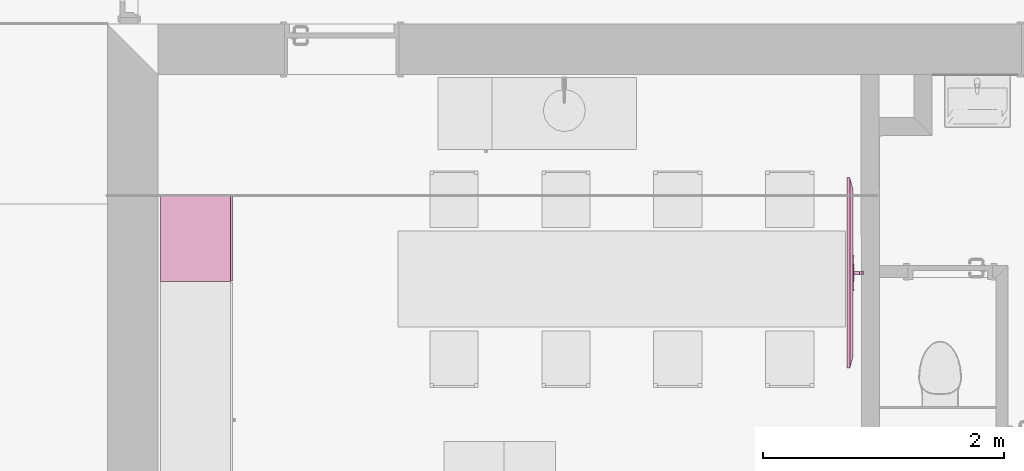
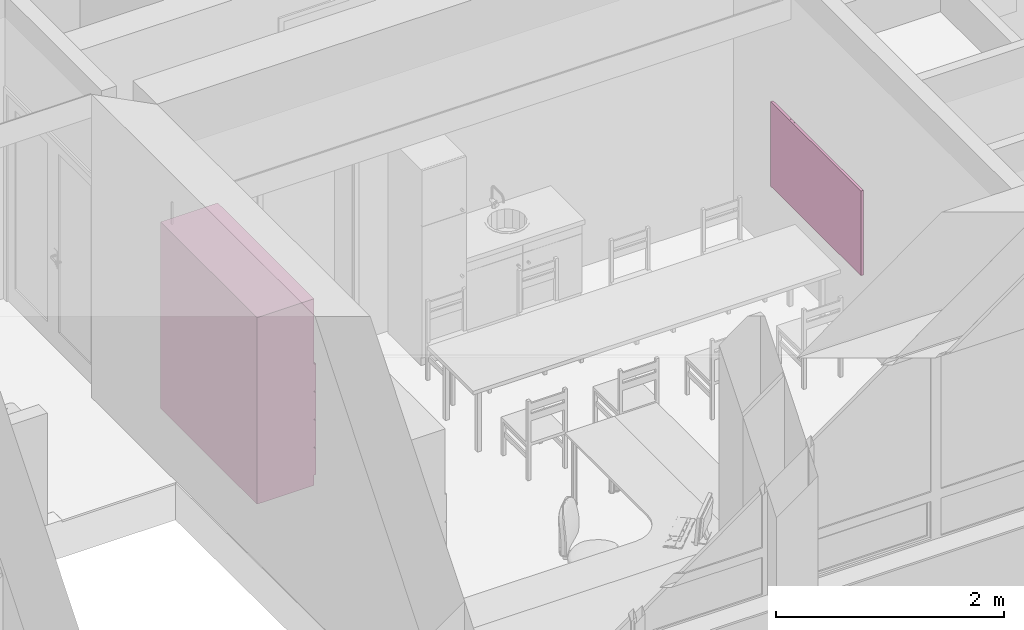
# One storey, part 136 of 194: 2 furnishings.
"""IFC2X3 building model written with IfcOpenShell, lengths in millimetres."""

from ifc_helpers import new_model, entity, si_unit, converted_unit, derived_unit, money_unit, direction, frame, origin_with_axes, place, context, subcontext, project, spatial, faceted_brep, source, transform, mapped, type_object, element, save


model = new_model("IFC2X3")

# Units and contexts
model_context = context("Model", 3, precision=1e-05, world=origin_with_axes(), true_north=direction((0.0, 1.0)))
body_context = subcontext(model_context, "Body", "Model", "MODEL_VIEW")
ifc_project = project(units=[si_unit("LENGTHUNIT", "METRE", prefix="MILLI"), si_unit("AREAUNIT", "SQUARE_METRE"), si_unit("VOLUMEUNIT", "CUBIC_METRE"), converted_unit("PLANEANGLEUNIT", "DEGREE", entity("IfcPlaneAngleMeasure", 0.0174532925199), si_unit("PLANEANGLEUNIT", "RADIAN"), dimensions=[0, 0, 0, 0, 0, 0, 0]), si_unit("SOLIDANGLEUNIT", "STERADIAN"), money_unit("EUR"), converted_unit("TIMEUNIT", "Year", entity("IfcTimeMeasure", 31556926.0), si_unit("TIMEUNIT", "SECOND"), dimensions=[0, 0, 1, 0, 0, 0, 0]), si_unit("MASSUNIT", "GRAM", prefix="KILO"), si_unit("THERMODYNAMICTEMPERATUREUNIT", "DEGREE_CELSIUS"), si_unit("LUMINOUSINTENSITYUNIT", "LUMEN"), si_unit("ENERGYUNIT", "JOULE", prefix="MEGA"), derived_unit("THERMALCONDUCTANCEUNIT", [(si_unit("POWERUNIT", "WATT"), 1), (si_unit("LENGTHUNIT", "METRE"), -1), (si_unit("THERMODYNAMICTEMPERATUREUNIT", "KELVIN"), -1)]), derived_unit("SPECIFICHEATCAPACITYUNIT", [(si_unit("ENERGYUNIT", "JOULE"), 1), (si_unit("MASSUNIT", "GRAM", prefix="KILO"), -1), (si_unit("THERMODYNAMICTEMPERATUREUNIT", "KELVIN"), -1)]), derived_unit("MASSDENSITYUNIT", [(si_unit("MASSUNIT", "GRAM", prefix="KILO"), 1), (si_unit("VOLUMEUNIT", "CUBIC_METRE"), -1)])], contexts=[model_context])

# Site, building, storey
site_placement = place(None, origin_with_axes())
site = spatial("IfcSite", under=ifc_project, at=site_placement, Name="Site", CompositionType="ELEMENT")
building_placement = place(site_placement, origin_with_axes())
building = spatial("IfcBuilding", under=site, at=building_placement, Name="Building", CompositionType="ELEMENT")
storey_placement = place(building_placement, frame((0.0, 0.0, 3000.0), z_axis=(0.0, 0.0, 1.0), x_axis=(1.0, 0.0, 0.0)))
storey = spatial("IfcBuildingStorey", under=building, at=storey_placement, Name="2 KORRUS", CompositionType="ELEMENT", Elevation=3000.0)

# Furnishings
furnishing_element_type_1 = type_object("IfcFurnishingElementType", Name="Flat Panel TV 22")
shared_shape_1 = source(origin_with_axes(), body_context, "Body", "Brep", [
    faceted_brep([(716.344350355, 60.0, 528.881197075), (716.344350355, 50.0, 528.881197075), (866.344350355, 50.0, 528.881197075), (866.344350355, 60.0, 528.881197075), (716.344350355, 60.0, 378.881197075), (716.344350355, 50.0, 378.881197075), (866.344350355, 50.0, 378.881197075), (866.344350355, 60.0, 378.881197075)], [[[0, 1, 2, 3]], [[4, 5, 1, 0]], [[1, 5, 6, 2]], [[3, 2, 6, 7]], [[0, 3, 7, 4]], [[7, 6, 5, 4]]]),
    faceted_brep([(641.344350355, 55.0, 358.881197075), (641.344350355, 50.0, 358.881197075), (641.344350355, 50.0, 378.881197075), (641.344350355, 55.0, 378.881197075), (941.344350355, 55.0, 358.881197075), (941.344350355, 50.0, 358.881197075), (941.344350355, 50.0, 378.881197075), (941.344350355, 55.0, 378.881197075)], [[[0, 1, 2, 3]], [[4, 5, 1, 0]], [[1, 5, 6, 2]], [[3, 2, 6, 7]], [[0, 3, 7, 4]], [[7, 6, 5, 4]]]),
    faceted_brep([(641.344350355, 55.0, 548.881197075), (641.344350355, 55.0, 528.881197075), (641.344350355, 50.0, 528.881197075), (641.344350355, 50.0, 548.881197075), (941.344350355, 55.0, 548.881197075), (941.344350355, 55.0, 528.881197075), (941.344350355, 50.0, 528.881197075), (941.344350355, 50.0, 548.881197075)], [[[0, 1, 2, 3]], [[0, 4, 5, 1]], [[1, 5, 6, 2]], [[3, 2, 6, 7]], [[4, 0, 3, 7]], [[5, 4, 7, 6]]]),
    faceted_brep([(656.344350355, 60.0, 341.381197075), (646.344350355, 60.0, 341.381197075), (646.344350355, 60.0, 566.381197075), (656.344350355, 60.0, 566.381197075), (656.344350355, 50.0, 303.881197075), (646.344350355, 50.0, 303.881197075), (646.344350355, 50.0, 603.881197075), (656.344350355, 50.0, 603.881197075)], [[[0, 1, 2, 3]], [[4, 5, 1, 0]], [[1, 5, 6, 2]], [[3, 2, 6, 7]], [[0, 3, 7, 4]], [[7, 6, 5, 4]]]),
    faceted_brep([(926.344350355, 60.0, 341.381197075), (926.344350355, 60.0, 566.381197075), (936.344350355, 60.0, 566.381197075), (936.344350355, 60.0, 341.381197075), (926.344350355, 50.0, 303.881197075), (926.344350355, 50.0, 603.881197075), (936.344350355, 50.0, 603.881197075), (936.344350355, 50.0, 303.881197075)], [[[0, 1, 2, 3]], [[0, 4, 5, 1]], [[1, 5, 6, 2]], [[3, 2, 6, 7]], [[4, 0, 3, 7]], [[5, 4, 7, 6]]]),
    faceted_brep([(803.844350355, 93.75, 466.381197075), (803.844350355, 93.75, 416.381197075), (803.090508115, 98.0252517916, 416.381197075), (803.090508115, 98.0252517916, 466.381197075), (803.090508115, 89.4747482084, 466.381197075), (803.090508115, 89.4747482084, 416.381197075), (800.919905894, 85.7151548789, 416.381197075), (797.594350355, 82.9246824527, 416.381197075), (793.514952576, 81.4399030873, 416.381197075), (789.173748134, 81.4399030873, 416.381197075), (785.094350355, 82.9246824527, 416.381197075), (781.768794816, 85.7151548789, 416.381197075), (779.598192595, 89.4747482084, 416.381197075), (778.844350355, 93.75, 416.381197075), (779.598192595, 98.0252517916, 416.381197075), (781.768794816, 101.784845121, 416.381197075), (785.094350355, 104.575317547, 416.381197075), (789.173748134, 106.060096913, 416.381197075), (793.514952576, 106.060096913, 416.381197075), (797.594350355, 104.575317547, 416.381197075), (800.919905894, 101.784845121, 416.381197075), (800.919905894, 101.784845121, 466.381197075), (797.594350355, 104.575317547, 466.381197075), (793.514952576, 106.060096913, 466.381197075), (789.173748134, 106.060096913, 466.381197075), (785.094350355, 104.575317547, 466.381197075), (781.768794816, 101.784845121, 466.381197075), (779.598192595, 98.0252517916, 466.381197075), (778.844350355, 93.75, 466.381197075), (779.598192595, 89.4747482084, 466.381197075), (781.768794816, 85.7151548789, 466.381197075), (785.094350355, 82.9246824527, 466.381197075), (789.173748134, 81.4399030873, 466.381197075), (793.514952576, 81.4399030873, 466.381197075), (797.594350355, 82.9246824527, 466.381197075), (800.919905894, 85.7151548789, 466.381197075)], [[[0, 1, 2, 3]], [[4, 5, 1, 0]], [[1, 5, 6, 7, 8, 9, 10, 11, 12, 13, 14, 15, 16, 17, 18, 19, 20, 2]], [[3, 2, 20, 21]], [[0, 3, 21, 22, 23, 24, 25, 26, 27, 28, 29, 30, 31, 32, 33, 34, 35, 4]], [[35, 6, 5, 4]], [[34, 7, 6, 35]], [[33, 8, 7, 34]], [[32, 9, 8, 33]], [[31, 10, 9, 32]], [[30, 11, 10, 31]], [[29, 12, 11, 30]], [[28, 13, 12, 29]], [[27, 14, 13, 28]], [[26, 15, 14, 27]], [[25, 16, 15, 26]], [[24, 17, 16, 25]], [[23, 18, 17, 24]], [[22, 19, 18, 23]], [[21, 20, 19, 22]]]),
    faceted_brep([(803.844350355, 93.75, 441.381197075), (803.844350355, 93.75, 466.381197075), (803.844350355, 60.0, 466.381197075), (803.844350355, 60.0, 441.381197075), (803.090508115, 89.4747482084, 466.381197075), (803.090508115, 89.4747482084, 441.381197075), (779.598192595, 89.4747482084, 466.381197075), (778.844350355, 93.75, 466.381197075), (778.844350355, 60.0, 466.381197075), (800.919905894, 85.7151548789, 466.381197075), (797.594350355, 82.9246824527, 466.381197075), (793.514952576, 81.4399030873, 466.381197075), (789.173748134, 81.4399030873, 466.381197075), (785.094350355, 82.9246824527, 466.381197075), (781.768794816, 85.7151548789, 466.381197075), (778.844350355, 60.0, 441.381197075), (778.844350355, 93.75, 441.381197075), (779.598192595, 89.4747482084, 441.381197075), (781.768794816, 85.7151548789, 441.381197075), (785.094350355, 82.9246824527, 441.381197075), (789.173748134, 81.4399030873, 441.381197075), (793.514952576, 81.4399030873, 441.381197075), (797.594350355, 82.9246824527, 441.381197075), (800.919905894, 85.7151548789, 441.381197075)], [[[0, 1, 2, 3]], [[4, 1, 0, 5]], [[6, 7, 8, 2, 1, 4, 9, 10, 11, 12, 13, 14]], [[3, 2, 8, 15]], [[5, 0, 3, 15, 16, 17, 18, 19, 20, 21, 22, 23]], [[9, 4, 5, 23]], [[7, 6, 17, 16]], [[7, 16, 15, 8]], [[10, 9, 23, 22]], [[11, 10, 22, 21]], [[12, 11, 21, 20]], [[13, 12, 20, 19]], [[14, 13, 19, 18]], [[6, 14, 18, 17]]]),
    faceted_brep([(800.919905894, 101.784845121, 441.381197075), (803.090508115, 98.0252517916, 441.381197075), (803.844350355, 93.75, 441.381197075), (803.844350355, 127.5, 441.381197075), (778.844350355, 127.5, 441.381197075), (778.844350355, 93.75, 441.381197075), (779.598192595, 98.0252517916, 441.381197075), (781.768794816, 101.784845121, 441.381197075), (785.094350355, 104.575317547, 441.381197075), (789.173748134, 106.060096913, 441.381197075), (793.514952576, 106.060096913, 441.381197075), (797.594350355, 104.575317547, 441.381197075), (800.919905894, 101.784845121, 416.381197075), (803.090508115, 98.0252517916, 416.381197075), (803.844350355, 93.75, 416.381197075), (803.844350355, 127.5, 416.381197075), (778.844350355, 127.5, 416.381197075), (778.844350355, 93.75, 416.381197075), (779.598192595, 98.0252517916, 416.381197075), (781.768794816, 101.784845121, 416.381197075), (785.094350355, 104.575317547, 416.381197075), (789.173748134, 106.060096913, 416.381197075), (793.514952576, 106.060096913, 416.381197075), (797.594350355, 104.575317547, 416.381197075)], [[[0, 1, 2, 3, 4, 5, 6, 7, 8, 9, 10, 11]], [[1, 0, 12, 13]], [[2, 1, 13, 14]], [[2, 14, 15, 3]], [[4, 3, 15, 16]], [[17, 5, 4, 16]], [[6, 5, 17, 18]], [[7, 6, 18, 19]], [[8, 7, 19, 20]], [[9, 8, 20, 21]], [[10, 9, 21, 22]], [[11, 10, 22, 23]], [[0, 11, 23, 12]], [[18, 17, 16, 15, 14, 13, 12, 23, 22, 21, 20, 19]]]),
    faceted_brep([(776.344350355, 127.5, 353.881197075), (776.344350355, 137.5, 353.881197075), (806.344350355, 137.5, 353.881197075), (806.344350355, 127.5, 353.881197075), (776.344350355, 127.5, 503.881197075), (776.344350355, 137.5, 503.881197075), (806.344350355, 137.5, 503.881197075), (806.344350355, 127.5, 503.881197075)], [[[0, 1, 2, 3]], [[4, 5, 1, 0]], [[1, 5, 6, 2]], [[3, 2, 6, 7]], [[0, 3, 7, 4]], [[7, 6, 5, 4]]]),
    faceted_brep([(1562.68870071, 0.0, 20.0), (1562.68870071, 1.0, 20.0), (1562.68870071, 1.0, 887.76239415), (1562.68870071, 0.0, 887.76239415), (20.0, 0.0, 20.0), (20.0, 1.0, 20.0), (20.0, 1.0, 887.76239415), (20.0, 0.0, 887.76239415)], [[[0, 1, 2, 3]], [[4, 5, 1, 0]], [[1, 5, 6, 2]], [[3, 2, 6, 7]], [[0, 3, 7, 4]], [[7, 6, 5, 4]]]),
    faceted_brep([(1582.68870071, 0.0, 907.76239415), (0.0, 0.0, 907.76239415), (0.0, 0.0, 0.0), (1582.68870071, 0.0, 0.0), (20.0, 0.0, 20.0), (20.0, 0.0, 887.76239415), (1562.68870071, 0.0, 887.76239415), (1562.68870071, 0.0, 20.0), (1582.68870095, 25.0, 907.762393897), (-3.89516308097e-07, 25.0, 907.762393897), (-3.89516308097e-07, 25.0, -3.89516363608e-07), (1582.68870095, 25.0, -3.89516363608e-07), (20.0, 1.0, 20.0), (20.0, 1.0, 887.76239415), (1562.68870071, 1.0, 887.76239415), (1562.68870071, 1.0, 20.0), (1489.38742937, 50.0000003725, 814.461122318), (93.30127119, 50.0000003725, 814.461122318), (93.30127119, 50.0000003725, 93.30127119), (1489.38742937, 50.0000003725, 93.30127119)], [[[0, 1, 2, 3], [4, 5, 6, 7]], [[8, 9, 1, 0]], [[9, 10, 2, 1]], [[10, 11, 3, 2]], [[11, 8, 0, 3]], [[5, 4, 12, 13]], [[6, 5, 13, 14]], [[7, 6, 14, 15]], [[4, 7, 15, 12]], [[16, 17, 9, 8]], [[17, 18, 10, 9]], [[18, 19, 11, 10]], [[19, 16, 8, 11]], [[14, 13, 12, 15]], [[16, 19, 18, 17]]]),
    faceted_brep([(791.344350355, -0.8, 5.0), (791.344350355, 0.0, 5.0), (807.171237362, 0.0, 10.0), (807.171237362, -0.8, 10.0), (775.517463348, -0.8, 10.0), (775.517463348, 0.0, 10.0), (633.075480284, 0.0, 15.0), (949.613220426, 0.0, 15.0), (949.613220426, -0.8, 15.0), (633.075480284, -0.8, 15.0)], [[[0, 1, 2, 3]], [[4, 5, 1, 0]], [[1, 5, 6, 7, 2]], [[3, 2, 7, 8]], [[0, 3, 8, 9, 4]], [[9, 6, 5, 4]], [[8, 7, 6, 9]]]),
    faceted_brep([(211.025160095, 10.0, 907.76239415), (211.025160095, 10.0, 909.36239415), (105.512580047, 10.0, 909.36239415), (105.512580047, 10.0, 907.76239415), (211.025160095, 16.25, 907.76239415), (211.025160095, 16.25, 909.36239415), (105.512580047, 16.25, 909.36239415), (105.512580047, 16.25, 907.76239415)], [[[0, 1, 2, 3]], [[0, 4, 5, 1]], [[1, 5, 6, 2]], [[2, 6, 7, 3]], [[3, 7, 4, 0]], [[7, 6, 5, 4]]]),
    faceted_brep([(324.074353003, 10.0, 907.76239415), (324.074353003, 10.0, 909.36239415), (218.561772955, 10.0, 909.36239415), (218.561772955, 10.0, 907.76239415), (324.074353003, 16.25, 907.76239415), (324.074353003, 16.25, 909.36239415), (218.561772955, 16.25, 909.36239415), (218.561772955, 16.25, 907.76239415)], [[[0, 1, 2, 3]], [[0, 4, 5, 1]], [[1, 5, 6, 2]], [[2, 6, 7, 3]], [[3, 7, 4, 0]], [[7, 6, 5, 4]]]),
    faceted_brep([(384.367255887, 10.0, 907.76239415), (384.367255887, 10.0, 909.36239415), (331.610965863, 10.0, 909.36239415), (331.610965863, 10.0, 907.76239415), (384.367255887, 16.25, 907.76239415), (384.367255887, 16.25, 909.36239415), (331.610965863, 16.25, 909.36239415), (331.610965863, 16.25, 907.76239415)], [[[0, 1, 2, 3]], [[0, 4, 5, 1]], [[1, 5, 6, 2]], [[2, 6, 7, 3]], [[3, 7, 4, 0]], [[7, 6, 5, 4]]]),
])
furnishing_1_placement = place(storey_placement, frame((69884.2627053, 39726.1471287, 886.409781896), z_axis=(0.0, 0.0, 1.0), x_axis=(0.000384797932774, -0.999999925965, 0.0)))
element("IfcFurnishingElement", 1, at=furnishing_1_placement, inside=storey, type_object=furnishing_element_type_1, Name="FU - 002", context=body_context, shape_type="MappedRepresentation", body=[
    mapped(shared_shape_1, transform((0.0, 0.0, 0.0))),
])
furnishing_element_type_2 = type_object("IfcFurnishingElementType", Name="Model Element 52")
shared_shape_2 = source(origin_with_axes(), body_context, "Body", "Brep", [
    faceted_brep([(1693.4828307, 19.0, 0.0), (0.0, 19.0, 0.0), (0.0, 599.467164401, 0.0), (1693.4828307, 599.467164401, 0.0), (1693.4828307, 19.0, 100.0), (0.0, 19.0, 100.0), (0.0, 599.467164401, 100.0), (1693.4828307, 599.467164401, 100.0)], [[[0, 1, 2, 3]], [[1, 0, 4, 5]], [[2, 1, 5, 6]], [[3, 2, 6, 7]], [[0, 3, 7, 4]], [[5, 4, 7, 6]]]),
    faceted_brep([(19.0, 599.467164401, 119.0), (19.0, 580.467164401, 119.0), (19.0, 580.467164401, 1981.0), (19.0, 599.467164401, 1981.0), (1674.4828307, 599.467164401, 119.0), (1674.4828307, 580.467164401, 119.0), (1674.4828307, 580.467164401, 1981.0), (1674.4828307, 599.467164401, 1981.0)], [[[0, 1, 2, 3]], [[0, 4, 5, 1]], [[1, 5, 6, 2]], [[3, 2, 6, 7]], [[4, 0, 3, 7]], [[5, 4, 7, 6]]]),
    faceted_brep([(1693.4828307, 19.0, 100.0), (1674.4828307, 19.0, 100.0), (1674.4828307, 599.467164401, 100.0), (1693.4828307, 599.467164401, 100.0), (1693.4828307, 19.0, 2000.0), (1674.4828307, 19.0, 2000.0), (1674.4828307, 599.467164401, 2000.0), (1693.4828307, 599.467164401, 2000.0)], [[[0, 1, 2, 3]], [[1, 0, 4, 5]], [[2, 1, 5, 6]], [[3, 2, 6, 7]], [[0, 3, 7, 4]], [[5, 4, 7, 6]]]),
    faceted_brep([(19.0, 19.0, 100.0), (0.0, 19.0, 100.0), (0.0, 599.467164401, 100.0), (19.0, 599.467164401, 100.0), (19.0, 19.0, 2000.0), (0.0, 19.0, 2000.0), (0.0, 599.467164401, 2000.0), (19.0, 599.467164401, 2000.0)], [[[0, 1, 2, 3]], [[1, 0, 4, 5]], [[2, 1, 5, 6]], [[3, 2, 6, 7]], [[0, 3, 7, 4]], [[5, 4, 7, 6]]]),
    faceted_brep([(1674.4828307, 19.0, 100.0), (19.0, 19.0, 100.0), (19.0, 599.467164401, 100.0), (1674.4828307, 599.467164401, 100.0), (1674.4828307, 19.0, 119.0), (19.0, 19.0, 119.0), (19.0, 599.467164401, 119.0), (1674.4828307, 599.467164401, 119.0)], [[[0, 1, 2, 3]], [[1, 0, 4, 5]], [[2, 1, 5, 6]], [[3, 2, 6, 7]], [[0, 3, 7, 4]], [[5, 4, 7, 6]]]),
    faceted_brep([(1674.4828307, 19.0, 1981.0), (19.0, 19.0, 1981.0), (19.0, 599.467164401, 1981.0), (1674.4828307, 599.467164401, 1981.0), (1674.4828307, 19.0, 2000.0), (19.0, 19.0, 2000.0), (19.0, 599.467164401, 2000.0), (1674.4828307, 599.467164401, 2000.0)], [[[0, 1, 2, 3]], [[1, 0, 4, 5]], [[2, 1, 5, 6]], [[3, 2, 6, 7]], [[0, 3, 7, 4]], [[5, 4, 7, 6]]]),
    faceted_brep([(5.0, 19.0, 105.0), (1688.4828307, 19.0, 105.0), (1688.4828307, 0.0, 105.0), (5.0, 0.0, 105.0), (5.0, 19.0, 395.0), (1688.4828307, 19.0, 395.0), (1688.4828307, 0.0, 395.0), (5.0, 0.0, 395.0)], [[[0, 1, 2, 3]], [[0, 4, 5, 1]], [[1, 5, 6, 2]], [[3, 2, 6, 7]], [[4, 0, 3, 7]], [[5, 4, 7, 6]]]),
    faceted_brep([(857.133720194, 0.0, 244.0), (852.741415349, 0.0, 239.607695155), (846.741415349, 0.0, 238.0), (840.741415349, 0.0, 239.607695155), (836.349110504, 0.0, 244.0), (834.741415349, 0.0, 250.0), (836.349110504, 0.0, 256.0), (840.741415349, 0.0, 260.392304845), (846.741415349, 0.0, 262.0), (852.741415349, 0.0, 260.392304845), (857.133720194, 0.0, 256.0), (858.741415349, 0.0, 250.0), (857.133720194, -25.0, 244.0), (852.741415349, -25.0, 239.607695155), (846.741415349, -25.0, 238.0), (840.741415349, -25.0, 239.607695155), (836.349110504, -25.0, 244.0), (834.741415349, -25.0, 250.0), (836.349110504, -25.0, 256.0), (840.741415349, -25.0, 260.392304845), (846.741415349, -25.0, 262.0), (852.741415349, -25.0, 260.392304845), (857.133720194, -25.0, 256.0), (858.741415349, -25.0, 250.0)], [[[0, 1, 2, 3, 4, 5, 6, 7, 8, 9, 10, 11]], [[1, 0, 12, 13]], [[2, 1, 13, 14]], [[3, 2, 14, 15]], [[4, 3, 15, 16]], [[5, 4, 16, 17]], [[6, 5, 17, 18]], [[7, 6, 18, 19]], [[8, 7, 19, 20]], [[9, 8, 20, 21]], [[10, 9, 21, 22]], [[11, 10, 22, 23]], [[0, 11, 23, 12]], [[12, 23, 22, 21, 20, 19, 18, 17, 16, 15, 14, 13]]]),
    faceted_brep([(5.0, 19.0, 405.0), (1688.4828307, 19.0, 405.0), (1688.4828307, 0.0, 405.0), (5.0, 0.0, 405.0), (5.0, 19.0, 695.0), (1688.4828307, 19.0, 695.0), (1688.4828307, 0.0, 695.0), (5.0, 0.0, 695.0)], [[[0, 1, 2, 3]], [[0, 4, 5, 1]], [[1, 5, 6, 2]], [[3, 2, 6, 7]], [[4, 0, 3, 7]], [[5, 4, 7, 6]]]),
    faceted_brep([(857.133720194, 0.0, 544.0), (852.741415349, 0.0, 539.607695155), (846.741415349, 0.0, 538.0), (840.741415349, 0.0, 539.607695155), (836.349110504, 0.0, 544.0), (834.741415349, 0.0, 550.0), (836.349110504, 0.0, 556.0), (840.741415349, 0.0, 560.392304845), (846.741415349, 0.0, 562.0), (852.741415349, 0.0, 560.392304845), (857.133720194, 0.0, 556.0), (858.741415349, 0.0, 550.0), (857.133720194, -25.0, 544.0), (852.741415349, -25.0, 539.607695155), (846.741415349, -25.0, 538.0), (840.741415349, -25.0, 539.607695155), (836.349110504, -25.0, 544.0), (834.741415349, -25.0, 550.0), (836.349110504, -25.0, 556.0), (840.741415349, -25.0, 560.392304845), (846.741415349, -25.0, 562.0), (852.741415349, -25.0, 560.392304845), (857.133720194, -25.0, 556.0), (858.741415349, -25.0, 550.0)], [[[0, 1, 2, 3, 4, 5, 6, 7, 8, 9, 10, 11]], [[1, 0, 12, 13]], [[2, 1, 13, 14]], [[3, 2, 14, 15]], [[4, 3, 15, 16]], [[5, 4, 16, 17]], [[6, 5, 17, 18]], [[7, 6, 18, 19]], [[8, 7, 19, 20]], [[9, 8, 20, 21]], [[10, 9, 21, 22]], [[11, 10, 22, 23]], [[0, 11, 23, 12]], [[12, 23, 22, 21, 20, 19, 18, 17, 16, 15, 14, 13]]]),
    faceted_brep([(5.0, 19.0, 705.0), (1688.4828307, 19.0, 705.0), (1688.4828307, 0.0, 705.0), (5.0, 0.0, 705.0), (5.0, 19.0, 995.0), (1688.4828307, 19.0, 995.0), (1688.4828307, 0.0, 995.0), (5.0, 0.0, 995.0)], [[[0, 1, 2, 3]], [[0, 4, 5, 1]], [[1, 5, 6, 2]], [[3, 2, 6, 7]], [[4, 0, 3, 7]], [[5, 4, 7, 6]]]),
    faceted_brep([(857.133720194, 0.0, 844.0), (852.741415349, 0.0, 839.607695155), (846.741415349, 0.0, 838.0), (840.741415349, 0.0, 839.607695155), (836.349110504, 0.0, 844.0), (834.741415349, 0.0, 850.0), (836.349110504, 0.0, 856.0), (840.741415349, 0.0, 860.392304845), (846.741415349, 0.0, 862.0), (852.741415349, 0.0, 860.392304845), (857.133720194, 0.0, 856.0), (858.741415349, 0.0, 850.0), (857.133720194, -25.0, 844.0), (852.741415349, -25.0, 839.607695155), (846.741415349, -25.0, 838.0), (840.741415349, -25.0, 839.607695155), (836.349110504, -25.0, 844.0), (834.741415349, -25.0, 850.0), (836.349110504, -25.0, 856.0), (840.741415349, -25.0, 860.392304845), (846.741415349, -25.0, 862.0), (852.741415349, -25.0, 860.392304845), (857.133720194, -25.0, 856.0), (858.741415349, -25.0, 850.0)], [[[0, 1, 2, 3, 4, 5, 6, 7, 8, 9, 10, 11]], [[1, 0, 12, 13]], [[2, 1, 13, 14]], [[3, 2, 14, 15]], [[4, 3, 15, 16]], [[5, 4, 16, 17]], [[6, 5, 17, 18]], [[7, 6, 18, 19]], [[8, 7, 19, 20]], [[9, 8, 20, 21]], [[10, 9, 21, 22]], [[11, 10, 22, 23]], [[0, 11, 23, 12]], [[12, 23, 22, 21, 20, 19, 18, 17, 16, 15, 14, 13]]]),
    faceted_brep([(5.0, 19.0, 1005.0), (1688.4828307, 19.0, 1005.0), (1688.4828307, 0.0, 1005.0), (5.0, 0.0, 1005.0), (5.0, 19.0, 1295.0), (1688.4828307, 19.0, 1295.0), (1688.4828307, 0.0, 1295.0), (5.0, 0.0, 1295.0)], [[[0, 1, 2, 3]], [[0, 4, 5, 1]], [[1, 5, 6, 2]], [[3, 2, 6, 7]], [[4, 0, 3, 7]], [[5, 4, 7, 6]]]),
    faceted_brep([(857.133720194, 0.0, 1144.0), (852.741415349, 0.0, 1139.60769515), (846.741415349, 0.0, 1138.0), (840.741415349, 0.0, 1139.60769515), (836.349110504, 0.0, 1144.0), (834.741415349, 0.0, 1150.0), (836.349110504, 0.0, 1156.0), (840.741415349, 0.0, 1160.39230485), (846.741415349, 0.0, 1162.0), (852.741415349, 0.0, 1160.39230485), (857.133720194, 0.0, 1156.0), (858.741415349, 0.0, 1150.0), (857.133720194, -25.0, 1144.0), (852.741415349, -25.0, 1139.60769515), (846.741415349, -25.0, 1138.0), (840.741415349, -25.0, 1139.60769515), (836.349110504, -25.0, 1144.0), (834.741415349, -25.0, 1150.0), (836.349110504, -25.0, 1156.0), (840.741415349, -25.0, 1160.39230485), (846.741415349, -25.0, 1162.0), (852.741415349, -25.0, 1160.39230485), (857.133720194, -25.0, 1156.0), (858.741415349, -25.0, 1150.0)], [[[0, 1, 2, 3, 4, 5, 6, 7, 8, 9, 10, 11]], [[1, 0, 12, 13]], [[2, 1, 13, 14]], [[3, 2, 14, 15]], [[4, 3, 15, 16]], [[5, 4, 16, 17]], [[6, 5, 17, 18]], [[7, 6, 18, 19]], [[8, 7, 19, 20]], [[9, 8, 20, 21]], [[10, 9, 21, 22]], [[11, 10, 22, 23]], [[0, 11, 23, 12]], [[12, 23, 22, 21, 20, 19, 18, 17, 16, 15, 14, 13]]]),
    faceted_brep([(19.0, 19.0, 390.5), (1674.4828307, 19.0, 390.5), (1674.4828307, 19.0, 409.5), (19.0, 19.0, 409.5), (19.0, 580.467164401, 390.5), (1674.4828307, 580.467164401, 390.5), (1674.4828307, 580.467164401, 409.5), (19.0, 580.467164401, 409.5)], [[[0, 1, 2, 3]], [[0, 4, 5, 1]], [[1, 5, 6, 2]], [[3, 2, 6, 7]], [[4, 0, 3, 7]], [[5, 4, 7, 6]]]),
    faceted_brep([(19.0, 19.0, 690.5), (1674.4828307, 19.0, 690.5), (1674.4828307, 19.0, 709.5), (19.0, 19.0, 709.5), (19.0, 580.467164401, 690.5), (1674.4828307, 580.467164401, 690.5), (1674.4828307, 580.467164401, 709.5), (19.0, 580.467164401, 709.5)], [[[0, 1, 2, 3]], [[0, 4, 5, 1]], [[1, 5, 6, 2]], [[3, 2, 6, 7]], [[4, 0, 3, 7]], [[5, 4, 7, 6]]]),
    faceted_brep([(19.0, 19.0, 990.5), (1674.4828307, 19.0, 990.5), (1674.4828307, 19.0, 1009.5), (19.0, 19.0, 1009.5), (19.0, 580.467164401, 990.5), (1674.4828307, 580.467164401, 990.5), (1674.4828307, 580.467164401, 1009.5), (19.0, 580.467164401, 1009.5)], [[[0, 1, 2, 3]], [[0, 4, 5, 1]], [[1, 5, 6, 2]], [[3, 2, 6, 7]], [[4, 0, 3, 7]], [[5, 4, 7, 6]]]),
    faceted_brep([(19.0, 19.0, 1290.5), (1674.4828307, 19.0, 1290.5), (1674.4828307, 19.0, 1309.5), (19.0, 19.0, 1309.5), (19.0, 580.467164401, 1290.5), (1674.4828307, 580.467164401, 1290.5), (1674.4828307, 580.467164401, 1309.5), (19.0, 580.467164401, 1309.5)], [[[0, 1, 2, 3]], [[0, 4, 5, 1]], [[1, 5, 6, 2]], [[3, 2, 6, 7]], [[4, 0, 3, 7]], [[5, 4, 7, 6]]]),
    faceted_brep([(1674.4828307, 19.0, 1463.125), (19.0, 19.0, 1463.125), (19.0, 580.467164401, 1463.125), (1674.4828307, 580.467164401, 1463.125), (1674.4828307, 19.0, 1482.125), (19.0, 19.0, 1482.125), (19.0, 580.467164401, 1482.125), (1674.4828307, 580.467164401, 1482.125)], [[[0, 1, 2, 3]], [[1, 0, 4, 5]], [[2, 1, 5, 6]], [[3, 2, 6, 7]], [[0, 3, 7, 4]], [[5, 4, 7, 6]]]),
    faceted_brep([(1674.4828307, 19.0, 1635.75), (19.0, 19.0, 1635.75), (19.0, 580.467164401, 1635.75), (1674.4828307, 580.467164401, 1635.75), (1674.4828307, 19.0, 1654.75), (19.0, 19.0, 1654.75), (19.0, 580.467164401, 1654.75), (1674.4828307, 580.467164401, 1654.75)], [[[0, 1, 2, 3]], [[1, 0, 4, 5]], [[2, 1, 5, 6]], [[3, 2, 6, 7]], [[0, 3, 7, 4]], [[5, 4, 7, 6]]]),
    faceted_brep([(1674.4828307, 19.0, 1808.375), (19.0, 19.0, 1808.375), (19.0, 580.467164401, 1808.375), (1674.4828307, 580.467164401, 1808.375), (1674.4828307, 19.0, 1827.375), (19.0, 19.0, 1827.375), (19.0, 580.467164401, 1827.375), (1674.4828307, 580.467164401, 1827.375)], [[[0, 1, 2, 3]], [[1, 0, 4, 5]], [[2, 1, 5, 6]], [[3, 2, 6, 7]], [[0, 3, 7, 4]], [[5, 4, 7, 6]]]),
])
furnishing_2_placement = place(storey_placement, frame((64776.9723896, 38861.507887, 0.0), z_axis=(0.0, 0.0, 1.0), x_axis=(0.00064265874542, 0.999999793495, 0.0)))
element("IfcFurnishingElement", 2, at=furnishing_2_placement, inside=storey, type_object=furnishing_element_type_2, Name="FU - 001", context=body_context, shape_type="MappedRepresentation", body=[
    mapped(shared_shape_2, transform((0.0, 0.0, 0.0))),
])

save(model, "model.ifc")
